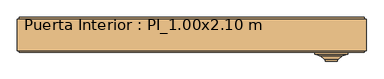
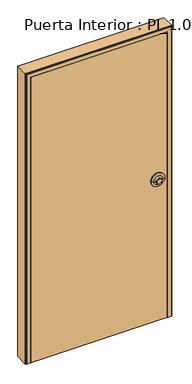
"""IFC4 building model written with IfcOpenShell, lengths in millimetres: door geometry, Puerta Interior : PI_1.00x2.10 m."""

from ifc_helpers import new_model, si_unit, point, frame, frame_2d, origin, place, context, project, spatial, polyline, circle_curve, ellipse_curve, trimmed, segment, composite_curve, outline, extrude, faceted_brep, source, transform, mapped, element, save
from ifc_brep_helpers import plane_surface, cylinder_surface, revolved_surface, advanced_brep


def puerta_interior_pi_1_00x2_10_m_514a608a(model_context):
    return source(origin(), model_context, "Body", "SolidModel", [
        extrude(outline(composite_curve([segment(trimmed(circle_curve(frame_2d((1025.0174632, 400.28125)), 17.5), [point((1025.0174632, 382.78125))], [point((1025.0174632, 417.78125))], False, "CARTESIAN"), True, "CONTINUOUS"), segment(trimmed(circle_curve(frame_2d((1025.0174632, 400.28125)), 17.5), [point((1025.0174632, 417.78125))], [point((1025.0174632, 382.78125))], False, "CARTESIAN"), True, "CONTINUOUS")], self_intersect=False)), frame((0.0, -75.0, 0.0), z_axis=(0.0, 1.0, 0.0), x_axis=(0.0, 0.0, 1.0)), (0.0, 0.0, 1.0), 20.0),
        advanced_brep(
        [(447.78125, -55.0, 1025.0174632), (447.78125, -50.0, 1025.0174632), (352.78125, -50.0, 1025.0174632), (352.78125, -55.0, 1025.0174632), (431.78125, -60.0, 1025.0174632), (368.78125, -60.0, 1025.0174632), (419.9828812, -70.0, 1025.0174632), (380.5796188, -70.0, 1025.0174632), (418.1741787, -70.0, 1025.0174632), (382.3883213, -70.0, 1025.0174632), (418.1741787, -55.0, 1025.0174632), (382.3883213, -55.0, 1025.0174632), (400.28125, -55.0, 1025.0174632), (400.28125, -50.0, 1025.0174632)],
        [
            (0, 1),
            (1, 2, circle_curve(frame((400.28125, -50.0, 1025.0174632), z_axis=(0.0, -1.0, 0.0), x_axis=(-1.0, 0.0, 0.0)), 47.5)),
            (2, 3),
            (3, 0, circle_curve(frame((400.28125, -55.0, 1025.0174632), z_axis=(0.0, 1.0, 0.0), x_axis=(-1.0, 0.0, 0.0)), 47.5)),
            (2, 1, circle_curve(frame((400.28125, -50.0, 1025.0174632), z_axis=(0.0, -1.0, 0.0), x_axis=(-1.0, 0.0, 0.0)), 47.5)),
            (0, 3, circle_curve(frame((400.28125, -55.0, 1025.0174632), z_axis=(0.0, 1.0, 0.0), x_axis=(-1.0, 0.0, 0.0)), 47.5)),
            (4, 0),
            (3, 5),
            (5, 4, circle_curve(frame((400.28125, -60.0, 1025.0174632), z_axis=(0.0, 1.0, 0.0), x_axis=(-1.0, 0.0, 0.0)), 31.5)),
            (4, 5, circle_curve(frame((400.28125, -60.0, 1025.0174632), z_axis=(0.0, 1.0, 0.0), x_axis=(-1.0, 0.0, 0.0)), 31.5)),
            (6, 4),
            (5, 7),
            (7, 6, circle_curve(frame((400.28125, -70.0, 1025.0174632), z_axis=(0.0, 1.0, 0.0), x_axis=(-1.0, 0.0, 0.0)), 19.7016312)),
            (6, 7, circle_curve(frame((400.28125, -70.0, 1025.0174632), z_axis=(0.0, 1.0, 0.0), x_axis=(-1.0, 0.0, 0.0)), 19.7016312)),
            (8, 6),
            (7, 9),
            (9, 8, circle_curve(frame((400.28125, -70.0, 1025.0174632), z_axis=(0.0, 1.0, 0.0), x_axis=(-1.0, 0.0, 0.0)), 17.8929287)),
            (8, 9, circle_curve(frame((400.28125, -70.0, 1025.0174632), z_axis=(0.0, 1.0, 0.0), x_axis=(-1.0, 0.0, 0.0)), 17.8929287)),
            (10, 8),
            (9, 11),
            (11, 10, circle_curve(frame((400.28125, -55.0, 1025.0174632), z_axis=(0.0, 1.0, 0.0), x_axis=(-1.0, 0.0, 0.0)), 17.8929287)),
            (10, 11, circle_curve(frame((400.28125, -55.0, 1025.0174632), z_axis=(0.0, 1.0, 0.0), x_axis=(-1.0, 0.0, 0.0)), 17.8929287)),
            (12, 10),
            (11, 12),
            (1, 13),
            (13, 2),
        ],
        [
            cylinder_surface(frame((400.28125, -50.0, 1025.0174632), z_axis=(0.0, -1.0, 0.0), x_axis=(-1.0, 0.0, 0.0)), 47.5),
            revolved_surface(polyline([(352.78125, -55.0, 1025.0174632), (368.78125, -60.0, 1025.0174632)]), (400.28125, -50.0, 1025.0174632), (0.0, -1.0, 0.0)),
            revolved_surface(polyline([(368.78125, -60.0, 1025.0174632), (380.5796188, -70.0, 1025.0174632)]), (400.28125, -50.0, 1025.0174632), (0.0, -1.0, 0.0)),
            plane_surface(frame((400.28125, -70.0, 1025.0174632), z_axis=(0.0, -1.0, 0.0), x_axis=(-1.0, 0.0, 0.0))),
            revolved_surface(polyline([(382.38832130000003, -70.0, 1025.0174632), (382.38832130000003, -55.0, 1025.0174632)]), (400.28125, -50.0, 1025.0174632), (0.0, -1.0, 0.0)),
            plane_surface(frame((400.28125, -55.0, 1025.0174632), z_axis=(0.0, -1.0, 0.0), x_axis=(-1.0, 0.0, 0.0))),
            plane_surface(frame((400.28125, -50.0, 1025.0174632), z_axis=(0.0, 1.0, 0.0), x_axis=(-1.0, 0.0, 0.0))),
        ],
        [
            (0, [[1, 2, 3, 4]]),
            (0, [[-3, 5, -1, 6]]),
            (1, [[7, -4, 8, 9]]),
            (1, [[-8, -6, -7, 10]]),
            (2, [[11, -9, 12, 13]]),
            (2, [[-12, -10, -11, 14]]),
            (3, [[15, -13, 16, 17]]),
            (3, [[-16, -14, -15, 18]]),
            (4, [[19, -17, 20, 21]]),
            (4, [[-20, -18, -19, 22]]),
            (5, [[23, -21, 24]]),
            (5, [[-24, -22, -23]]),
            (6, [[25, 26, -2]]),
            (6, [[-26, -25, -5]]),
        ],
    ),
        faceted_brep([(500.0, -45.0, 0.0), (495.0, -45.0, 0.0), (495.0, -50.0, 0.0), (467.0, -50.0, 0.0), (467.0, 0.0, 0.0), (450.0, 0.0, 0.0), (450.0, 50.0, 0.0), (495.0, 50.0, 0.0), (495.0, 45.0, 0.0), (500.0, 45.0, 0.0), (500.0, 45.0, 2100.0), (500.0, -45.0, 2100.0), (495.0, 45.0, 2095.0), (-495.0, 45.0, 2095.0), (-495.0, 45.0, 0.0), (-500.0, 45.0, 0.0), (-500.0, 45.0, 2100.0), (495.0, 50.0, 2095.0), (450.0, 50.0, 2050.0), (-450.0, 50.0, 2050.0), (-450.0, 50.0, 0.0), (-495.0, 50.0, 0.0), (-495.0, 50.0, 2095.0), (450.0, 0.0, 2050.0), (467.0, 0.0, 2067.0), (-467.0, 0.0, 2067.0), (-467.0, 0.0, 0.0), (-450.0, 0.0, 0.0), (-450.0, 0.0, 2050.0), (467.0, -50.0, 2067.0), (495.0, -50.0, 2095.0), (-495.0, -50.0, 2095.0), (-495.0, -50.0, 0.0), (-467.0, -50.0, 0.0), (-467.0, -50.0, 100.0349265), (-469.0, -50.0, 100.0349265), (-469.0, -50.0, 200.0349265), (-467.0, -50.0, 200.0349265), (-467.0, -50.0, 975.0174632), (-469.0, -50.0, 975.0174632), (-469.0, -50.0, 1075.0174632), (-467.0, -50.0, 1075.0174632), (-467.0, -50.0, 1850.0), (-469.0, -50.0, 1850.0), (-469.0, -50.0, 1950.0), (-467.0, -50.0, 1950.0), (-467.0, -50.0, 2067.0), (495.0, -45.0, 2095.0), (-500.0, -45.0, 2100.0), (-500.0, -45.0, 0.0), (-495.0, -45.0, 0.0), (-495.0, -45.0, 2095.0), (-467.0, -7.5, 1950.0), (-467.0, -7.5, 1850.0), (-467.0, -7.5, 1075.0174632), (-467.0, -7.5, 975.0174632), (-467.0, -7.5, 200.0349265), (-467.0, -7.5, 100.0349265), (-469.0, -7.5, 100.0349265), (-469.0, -7.5, 200.0349265), (-469.0, -7.5, 975.0174632), (-469.0, -7.5, 1075.0174632), (-469.0, -7.5, 1950.0), (-469.0, -7.5, 1850.0)], [[[0, 1, 2, 3, 4, 5, 6, 7, 8, 9]], [[9, 10, 11, 0]], [[8, 12, 13, 14, 15, 16, 10, 9]], [[7, 17, 12, 8]], [[6, 18, 19, 20, 21, 22, 17, 7]], [[5, 23, 18, 6]], [[4, 24, 25, 26, 27, 28, 23, 5]], [[3, 29, 24, 4]], [[2, 30, 31, 32, 33, 34, 35, 36, 37, 38, 39, 40, 41, 42, 43, 44, 45, 46, 29, 3]], [[1, 47, 30, 2]], [[0, 11, 48, 49, 50, 51, 47, 1]], [[15, 14, 21, 20, 27, 26, 33, 32, 50, 49]], [[16, 15, 49, 48]], [[51, 50, 32, 31]], [[46, 45, 52, 53, 42, 41, 54, 55, 38, 37, 56, 57, 34, 33, 26, 25]], [[28, 27, 20, 19]], [[22, 21, 14, 13]], [[58, 35, 34, 57]], [[58, 57, 56, 59]], [[56, 37, 36, 59]], [[60, 39, 38, 55]], [[60, 55, 54, 61]], [[54, 41, 40, 61]], [[61, 40, 39, 60]], [[59, 36, 35, 58]], [[10, 16, 48, 11]], [[23, 28, 19, 18]], [[29, 46, 25, 24]], [[17, 22, 13, 12]], [[47, 51, 31, 30]], [[62, 44, 43, 63]], [[62, 52, 45, 44]], [[63, 53, 52, 62]], [[43, 42, 53, 63]]]),
        extrude(outline(polyline([(467.0, -48.203125), (467.0, -50.0), (-467.0, -50.0), (-467.0, -48.203125), (467.0, -48.203125)])), frame((0.0, 0.0, 2.5), z_axis=(0.0, 0.0, 1.0), x_axis=(1.0, 0.0, 0.0)), (0.0, 0.0, 1.0), 2064.5),
        advanced_brep(
        [(117.5, 0.0, 395.0087316), (312.0, 0.0, 395.0087316), (312.0, 0.0, 157.5), (117.5, 0.0, 157.5), (37.5, -35.0, 77.5), (392.0, -35.0, 77.5), (392.0, -35.0, 475.0087316), (37.5, -35.0, 475.0087316), (117.5, 5.0, 395.0087316), (117.5, 5.0, 157.5), (37.5, -10.0, 475.0087316), (37.5, -10.0, 77.5), (97.5, 0.0, 415.0087316), (97.5, 0.0, 137.5), (107.5, 0.0, 405.0087316), (107.5, 0.0, 147.5), (112.5, 5.0, 400.0087316), (112.5, 5.0, 152.5), (112.5, 0.0, 152.5), (112.5, 0.0, 400.0087316), (312.0, 5.0, 157.5), (392.0, -10.0, 77.5), (332.0, 0.0, 137.5), (322.0, 0.0, 147.5), (317.0, 5.0, 152.5), (317.0, 0.0, 152.5), (312.0, 5.0, 395.0087316), (392.0, -10.0, 475.0087316), (332.0, 0.0, 415.0087316), (322.0, 0.0, 405.0087316), (317.0, 5.0, 400.0087316), (317.0, 0.0, 400.0087316)],
        [
            (0, 1),
            (1, 2),
            (2, 3),
            (3, 0),
            (4, 5),
            (5, 6),
            (6, 7),
            (7, 4),
            (8, 0),
            (3, 9),
            (9, 8),
            (10, 11),
            (11, 4),
            (7, 10),
            (10, 12),
            (12, 13),
            (13, 11),
            (12, 14, ellipse_curve(frame((102.5, 0.0, 410.0087316), z_axis=(-0.7071067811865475, 0.0, -0.7071067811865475), x_axis=(-0.7071067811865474, 0.0, 0.7071067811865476)), 7.0710678, 5.0)),
            (14, 15),
            (15, 13, ellipse_curve(frame((102.5, 0.0, 142.5), z_axis=(-0.7071067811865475, 0.0, 0.7071067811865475), x_axis=(0.7071067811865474, 0.0, 0.7071067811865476)), 7.0710678, 5.0)),
            (16, 17),
            (17, 18),
            (18, 19),
            (19, 16),
            (2, 20),
            (20, 9),
            (11, 21),
            (21, 5),
            (13, 22),
            (22, 21),
            (15, 23),
            (23, 22, ellipse_curve(frame((327.0, 0.0, 142.5), z_axis=(-0.7071067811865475, 0.0, -0.7071067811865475), x_axis=(-0.7071067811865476, 0.0, 0.7071067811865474)), 7.0710678, 5.0)),
            (17, 24),
            (24, 25),
            (25, 18),
            (1, 26),
            (26, 20),
            (21, 27),
            (27, 6),
            (22, 28),
            (28, 27),
            (23, 29),
            (29, 28, ellipse_curve(frame((327.0, 0.0, 410.0087316), z_axis=(0.7071067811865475, 0.0, -0.7071067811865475), x_axis=(-0.7071067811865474, 0.0, -0.7071067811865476)), 7.0710678, 5.0)),
            (24, 30),
            (30, 31),
            (31, 25),
            (8, 26),
            (27, 10),
            (28, 12),
            (29, 14),
            (31, 19),
            (30, 16),
        ],
        [
            plane_surface(frame((117.5, 0.0, 395.0087316), z_axis=(0.0, 1.0, 0.0), x_axis=(0.0, 0.0, -1.0))),
            plane_surface(frame((117.5, -35.0, 395.0087316), z_axis=(0.0, -1.0, 0.0), x_axis=(0.0, 0.0, 1.0))),
            plane_surface(frame((117.5, 5.0, 395.0087316), z_axis=(1.0, 0.0, 0.0), x_axis=(0.0, 0.0, -1.0))),
            plane_surface(frame((37.5, -35.0, 475.0087316), z_axis=(-1.0, 0.0, 0.0), x_axis=(0.0, 0.0, -1.0))),
            plane_surface(frame((37.5, -10.0, 475.0087316), z_axis=(-0.1643989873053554, 0.9863939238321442, 0.0), x_axis=(0.0, 0.0, -1.0))),
            cylinder_surface(frame((102.5, 0.0, 475.0087316), z_axis=(0.0, 0.0, 1.0), x_axis=(0.0, -1.0, 0.0)), 5.0),
            plane_surface(frame((112.5, 0.0, 400.0087316), z_axis=(-1.0, 0.0, 0.0), x_axis=(0.0, 0.0, -1.0))),
            plane_surface(frame((117.5, 5.0, 157.5), z_axis=(0.0, 0.0, 1.0), x_axis=(1.0, 0.0, 0.0))),
            plane_surface(frame((37.5, -35.0, 77.5), z_axis=(0.0, 0.0, -1.0), x_axis=(1.0, 0.0, 0.0))),
            plane_surface(frame((37.5, -10.0, 77.5), z_axis=(0.0, 0.9863939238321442, -0.1643989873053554), x_axis=(1.0, 0.0, 0.0))),
            cylinder_surface(frame((37.5, 0.0, 142.5), z_axis=(-1.0, 0.0, 0.0), x_axis=(0.0, -1.0, 0.0)), 5.0),
            plane_surface(frame((112.5, 0.0, 152.5), z_axis=(0.0, 0.0, -1.0), x_axis=(1.0, 0.0, 0.0))),
            plane_surface(frame((312.0, 5.0, 157.5), z_axis=(-1.0, 0.0, 0.0), x_axis=(0.0, 0.0, 1.0))),
            plane_surface(frame((392.0, -35.0, 77.5), z_axis=(1.0, 0.0, 0.0), x_axis=(0.0, 0.0, 1.0))),
            plane_surface(frame((392.0, -10.0, 77.5), z_axis=(0.1643989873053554, 0.9863939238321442, 0.0), x_axis=(0.0, 0.0, 1.0))),
            cylinder_surface(frame((327.0, 0.0, 77.5), z_axis=(0.0, 0.0, -1.0), x_axis=(0.0, -1.0, 0.0)), 5.0),
            plane_surface(frame((317.0, 0.0, 152.5), z_axis=(1.0, 0.0, 0.0), x_axis=(0.0, 0.0, 1.0))),
            plane_surface(frame((312.0, 5.0, 395.0087316), z_axis=(0.0, 0.0, -1.0), x_axis=(-1.0, 0.0, 0.0))),
            plane_surface(frame((392.0, -35.0, 475.0087316), z_axis=(0.0, 0.0, 1.0), x_axis=(-1.0, 0.0, 0.0))),
            plane_surface(frame((392.0, -10.0, 475.0087316), z_axis=(0.0, 0.9863939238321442, 0.1643989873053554), x_axis=(-1.0, 0.0, 0.0))),
            cylinder_surface(frame((392.0, 0.0, 410.0087316), z_axis=(1.0, 0.0, 0.0), x_axis=(0.0, -1.0, 0.0)), 5.0),
            plane_surface(frame((322.0, 0.0, 405.0087316), z_axis=(0.0, 1.0, 0.0), x_axis=(-1.0, 0.0, 0.0))),
            plane_surface(frame((317.0, 0.0, 400.0087316), z_axis=(0.0, 0.0, 1.0), x_axis=(-1.0, 0.0, 0.0))),
            plane_surface(frame((317.0, 5.0, 400.0087316), z_axis=(0.0, 1.0, 0.0), x_axis=(-1.0, 0.0, 0.0))),
        ],
        [
            (0, [[1, 2, 3, 4]]),
            (1, [[5, 6, 7, 8]]),
            (2, [[9, -4, 10, 11]]),
            (3, [[12, 13, -8, 14]]),
            (4, [[15, 16, 17, -12]]),
            (5, [[18, 19, 20, -16]]),
            (6, [[21, 22, 23, 24]]),
            (7, [[-10, -3, 25, 26]]),
            (8, [[27, 28, -5, -13]]),
            (9, [[29, 30, -27, -17]]),
            (10, [[31, 32, -29, -20]]),
            (11, [[33, 34, 35, -22]]),
            (12, [[-25, -2, 36, 37]]),
            (13, [[38, 39, -6, -28]]),
            (14, [[40, 41, -38, -30]]),
            (15, [[42, 43, -40, -32]]),
            (16, [[44, 45, 46, -34]]),
            (17, [[-36, -1, -9, 47]]),
            (18, [[-7, -39, 48, -14]]),
            (19, [[-48, -41, 49, -15]]),
            (20, [[-49, -43, 50, -18]]),
            (21, [[-50, -42, -31, -19], [-35, -46, 51, -23]]),
            (22, [[-51, -45, 52, -24]]),
            (23, [[-52, -44, -33, -21], [-26, -37, -47, -11]]),
        ],
    ),
        advanced_brep(
        [(-312.0, 0.0, 395.0087316), (-117.5, 0.0, 395.0087316), (-117.5, 0.0, 157.5), (-312.0, 0.0, 157.5), (-392.0, -35.0, 77.5), (-37.5, -35.0, 77.5), (-37.5, -35.0, 475.0087316), (-392.0, -35.0, 475.0087316), (-312.0, 5.0, 395.0087316), (-312.0, 5.0, 157.5), (-392.0, -10.0, 475.0087316), (-392.0, -10.0, 77.5), (-332.0, 0.0, 415.0087316), (-332.0, 0.0, 137.5), (-322.0, 0.0, 405.0087316), (-322.0, 0.0, 147.5), (-317.0, 5.0, 400.0087316), (-317.0, 5.0, 152.5), (-317.0, 0.0, 152.5), (-317.0, 0.0, 400.0087316), (-117.5, 5.0, 157.5), (-37.5, -10.0, 77.5), (-97.5, 0.0, 137.5), (-107.5, 0.0, 147.5), (-112.5, 5.0, 152.5), (-112.5, 0.0, 152.5), (-117.5, 5.0, 395.0087316), (-37.5, -10.0, 475.0087316), (-97.5, 0.0, 415.0087316), (-107.5, 0.0, 405.0087316), (-112.5, 5.0, 400.0087316), (-112.5, 0.0, 400.0087316)],
        [
            (0, 1),
            (1, 2),
            (2, 3),
            (3, 0),
            (4, 5),
            (5, 6),
            (6, 7),
            (7, 4),
            (8, 0),
            (3, 9),
            (9, 8),
            (10, 11),
            (11, 4),
            (7, 10),
            (10, 12),
            (12, 13),
            (13, 11),
            (12, 14, ellipse_curve(frame((-327.0, 0.0, 410.0087316), z_axis=(-0.7071067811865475, 0.0, -0.7071067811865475), x_axis=(-0.7071067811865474, 0.0, 0.7071067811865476)), 7.0710678, 5.0)),
            (14, 15),
            (15, 13, ellipse_curve(frame((-327.0, 0.0, 142.5), z_axis=(-0.7071067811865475, 0.0, 0.7071067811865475), x_axis=(0.7071067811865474, 0.0, 0.7071067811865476)), 7.0710678, 5.0)),
            (16, 17),
            (17, 18),
            (18, 19),
            (19, 16),
            (2, 20),
            (20, 9),
            (11, 21),
            (21, 5),
            (13, 22),
            (22, 21),
            (15, 23),
            (23, 22, ellipse_curve(frame((-102.5, 0.0, 142.5), z_axis=(-0.7071067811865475, 0.0, -0.7071067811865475), x_axis=(-0.7071067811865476, 0.0, 0.7071067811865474)), 7.0710678, 5.0)),
            (17, 24),
            (24, 25),
            (25, 18),
            (1, 26),
            (26, 20),
            (21, 27),
            (27, 6),
            (22, 28),
            (28, 27),
            (23, 29),
            (29, 28, ellipse_curve(frame((-102.5, 0.0, 410.0087316), z_axis=(0.7071067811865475, 0.0, -0.7071067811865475), x_axis=(-0.7071067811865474, 0.0, -0.7071067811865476)), 7.0710678, 5.0)),
            (24, 30),
            (30, 31),
            (31, 25),
            (8, 26),
            (27, 10),
            (28, 12),
            (29, 14),
            (31, 19),
            (30, 16),
        ],
        [
            plane_surface(frame((-312.0, 0.0, 395.0087316), z_axis=(0.0, 1.0, 0.0), x_axis=(0.0, 0.0, -1.0))),
            plane_surface(frame((-312.0, -35.0, 395.0087316), z_axis=(0.0, -1.0, 0.0), x_axis=(0.0, 0.0, 1.0))),
            plane_surface(frame((-312.0, 5.0, 395.0087316), z_axis=(1.0, 0.0, 0.0), x_axis=(0.0, 0.0, -1.0))),
            plane_surface(frame((-392.0, -35.0, 475.0087316), z_axis=(-1.0, 0.0, 0.0), x_axis=(0.0, 0.0, -1.0))),
            plane_surface(frame((-392.0, -10.0, 475.0087316), z_axis=(-0.1643989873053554, 0.9863939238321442, 0.0), x_axis=(0.0, 0.0, -1.0))),
            cylinder_surface(frame((-327.0, 0.0, 475.0087316), z_axis=(0.0, 0.0, 1.0), x_axis=(0.0, -1.0, 0.0)), 5.0),
            plane_surface(frame((-317.0, 0.0, 400.0087316), z_axis=(-1.0, 0.0, 0.0), x_axis=(0.0, 0.0, -1.0))),
            plane_surface(frame((-312.0, 5.0, 157.5), z_axis=(0.0, 0.0, 1.0), x_axis=(1.0, 0.0, 0.0))),
            plane_surface(frame((-392.0, -35.0, 77.5), z_axis=(0.0, 0.0, -1.0), x_axis=(1.0, 0.0, 0.0))),
            plane_surface(frame((-392.0, -10.0, 77.5), z_axis=(0.0, 0.9863939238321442, -0.1643989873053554), x_axis=(1.0, 0.0, 0.0))),
            cylinder_surface(frame((-392.0, 0.0, 142.5), z_axis=(-1.0, 0.0, 0.0), x_axis=(0.0, -1.0, 0.0)), 5.0),
            plane_surface(frame((-317.0, 0.0, 152.5), z_axis=(0.0, 0.0, -1.0), x_axis=(1.0, 0.0, 0.0))),
            plane_surface(frame((-117.5, 5.0, 157.5), z_axis=(-1.0, 0.0, 0.0), x_axis=(0.0, 0.0, 1.0))),
            plane_surface(frame((-37.5, -35.0, 77.5), z_axis=(1.0, 0.0, 0.0), x_axis=(0.0, 0.0, 1.0))),
            plane_surface(frame((-37.5, -10.0, 77.5), z_axis=(0.1643989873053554, 0.9863939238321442, 0.0), x_axis=(0.0, 0.0, 1.0))),
            cylinder_surface(frame((-102.5, 0.0, 77.5), z_axis=(0.0, 0.0, -1.0), x_axis=(0.0, -1.0, 0.0)), 5.0),
            plane_surface(frame((-112.5, 0.0, 152.5), z_axis=(1.0, 0.0, 0.0), x_axis=(0.0, 0.0, 1.0))),
            plane_surface(frame((-117.5, 5.0, 395.0087316), z_axis=(0.0, 0.0, -1.0), x_axis=(-1.0, 0.0, 0.0))),
            plane_surface(frame((-37.5, -35.0, 475.0087316), z_axis=(0.0, 0.0, 1.0), x_axis=(-1.0, 0.0, 0.0))),
            plane_surface(frame((-37.5, -10.0, 475.0087316), z_axis=(0.0, 0.9863939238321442, 0.1643989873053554), x_axis=(-1.0, 0.0, 0.0))),
            cylinder_surface(frame((-37.5, 0.0, 410.0087316), z_axis=(1.0, 0.0, 0.0), x_axis=(0.0, -1.0, 0.0)), 5.0),
            plane_surface(frame((-107.5, 0.0, 405.0087316), z_axis=(0.0, 1.0, 0.0), x_axis=(-1.0, 0.0, 0.0))),
            plane_surface(frame((-112.5, 0.0, 400.0087316), z_axis=(0.0, 0.0, 1.0), x_axis=(-1.0, 0.0, 0.0))),
            plane_surface(frame((-112.5, 5.0, 400.0087316), z_axis=(0.0, 1.0, 0.0), x_axis=(-1.0, 0.0, 0.0))),
        ],
        [
            (0, [[1, 2, 3, 4]]),
            (1, [[5, 6, 7, 8]]),
            (2, [[9, -4, 10, 11]]),
            (3, [[12, 13, -8, 14]]),
            (4, [[15, 16, 17, -12]]),
            (5, [[18, 19, 20, -16]]),
            (6, [[21, 22, 23, 24]]),
            (7, [[-10, -3, 25, 26]]),
            (8, [[27, 28, -5, -13]]),
            (9, [[29, 30, -27, -17]]),
            (10, [[31, 32, -29, -20]]),
            (11, [[33, 34, 35, -22]]),
            (12, [[-25, -2, 36, 37]]),
            (13, [[38, 39, -6, -28]]),
            (14, [[40, 41, -38, -30]]),
            (15, [[42, 43, -40, -32]]),
            (16, [[44, 45, 46, -34]]),
            (17, [[-36, -1, -9, 47]]),
            (18, [[-7, -39, 48, -14]]),
            (19, [[-48, -41, 49, -15]]),
            (20, [[-49, -43, 50, -18]]),
            (21, [[-50, -42, -31, -19], [-35, -46, 51, -23]]),
            (22, [[-51, -45, 52, -24]]),
            (23, [[-52, -44, -33, -21], [-26, -37, -47, -11]]),
        ],
    ),
        advanced_brep(
        [(-312.0, 0.0, 907.5174632), (-117.5, 0.0, 907.5174632), (-117.5, 0.0, 630.0087316), (-312.0, 0.0, 630.0087316), (-392.0, -35.0, 550.0087316), (-37.5, -35.0, 550.0087316), (-37.5, -35.0, 987.5174632), (-392.0, -35.0, 987.5174632), (-312.0, 5.0, 907.5174632), (-312.0, 5.0, 630.0087316), (-392.0, -10.0, 987.5174632), (-392.0, -10.0, 550.0087316), (-332.0, 0.0, 927.5174632), (-332.0, 0.0, 610.0087316), (-322.0, 0.0, 917.5174632), (-322.0, 0.0, 620.0087316), (-317.0, 5.0, 912.5174632), (-317.0, 5.0, 625.0087316), (-317.0, 0.0, 625.0087316), (-317.0, 0.0, 912.5174632), (-117.5, 5.0, 630.0087316), (-37.5, -10.0, 550.0087316), (-97.5, 0.0, 610.0087316), (-107.5, 0.0, 620.0087316), (-112.5, 5.0, 625.0087316), (-112.5, 0.0, 625.0087316), (-117.5, 5.0, 907.5174632), (-37.5, -10.0, 987.5174632), (-97.5, 0.0, 927.5174632), (-107.5, 0.0, 917.5174632), (-112.5, 5.0, 912.5174632), (-112.5, 0.0, 912.5174632)],
        [
            (0, 1),
            (1, 2),
            (2, 3),
            (3, 0),
            (4, 5),
            (5, 6),
            (6, 7),
            (7, 4),
            (8, 0),
            (3, 9),
            (9, 8),
            (10, 11),
            (11, 4),
            (7, 10),
            (10, 12),
            (12, 13),
            (13, 11),
            (12, 14, ellipse_curve(frame((-327.0, 0.0, 922.5174632), z_axis=(-0.7071067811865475, 0.0, -0.7071067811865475), x_axis=(-0.7071067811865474, 0.0, 0.7071067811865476)), 7.0710678, 5.0)),
            (14, 15),
            (15, 13, ellipse_curve(frame((-327.0, 0.0, 615.0087316), z_axis=(-0.7071067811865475, 0.0, 0.7071067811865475), x_axis=(0.7071067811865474, 0.0, 0.7071067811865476)), 7.0710678, 5.0)),
            (16, 17),
            (17, 18),
            (18, 19),
            (19, 16),
            (2, 20),
            (20, 9),
            (11, 21),
            (21, 5),
            (13, 22),
            (22, 21),
            (15, 23),
            (23, 22, ellipse_curve(frame((-102.5, 0.0, 615.0087316), z_axis=(-0.7071067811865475, 0.0, -0.7071067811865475), x_axis=(-0.7071067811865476, 0.0, 0.7071067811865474)), 7.0710678, 5.0)),
            (17, 24),
            (24, 25),
            (25, 18),
            (1, 26),
            (26, 20),
            (21, 27),
            (27, 6),
            (22, 28),
            (28, 27),
            (23, 29),
            (29, 28, ellipse_curve(frame((-102.5, 0.0, 922.5174632), z_axis=(0.7071067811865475, 0.0, -0.7071067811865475), x_axis=(-0.7071067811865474, 0.0, -0.7071067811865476)), 7.0710678, 5.0)),
            (24, 30),
            (30, 31),
            (31, 25),
            (8, 26),
            (27, 10),
            (28, 12),
            (29, 14),
            (31, 19),
            (30, 16),
        ],
        [
            plane_surface(frame((-312.0, 0.0, 907.5174632), z_axis=(0.0, 1.0, 0.0), x_axis=(0.0, 0.0, -1.0))),
            plane_surface(frame((-312.0, -35.0, 907.5174632), z_axis=(0.0, -1.0, 0.0), x_axis=(0.0, 0.0, 1.0))),
            plane_surface(frame((-312.0, 5.0, 907.5174632), z_axis=(1.0, 0.0, 0.0), x_axis=(0.0, 0.0, -1.0))),
            plane_surface(frame((-392.0, -35.0, 987.5174632), z_axis=(-1.0, 0.0, 0.0), x_axis=(0.0, 0.0, -1.0))),
            plane_surface(frame((-392.0, -10.0, 987.5174632), z_axis=(-0.1643989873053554, 0.9863939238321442, 0.0), x_axis=(0.0, 0.0, -1.0))),
            cylinder_surface(frame((-327.0, 0.0, 987.5174632), z_axis=(0.0, 0.0, 1.0), x_axis=(0.0, -1.0, 0.0)), 5.0),
            plane_surface(frame((-317.0, 0.0, 912.5174632), z_axis=(-1.0, 0.0, 0.0), x_axis=(0.0, 0.0, -1.0))),
            plane_surface(frame((-312.0, 5.0, 630.0087316), z_axis=(0.0, 0.0, 1.0), x_axis=(1.0, 0.0, 0.0))),
            plane_surface(frame((-392.0, -35.0, 550.0087316), z_axis=(0.0, 0.0, -1.0), x_axis=(1.0, 0.0, 0.0))),
            plane_surface(frame((-392.0, -10.0, 550.0087316), z_axis=(0.0, 0.9863939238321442, -0.1643989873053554), x_axis=(1.0, 0.0, 0.0))),
            cylinder_surface(frame((-392.0, 0.0, 615.0087316), z_axis=(-1.0, 0.0, 0.0), x_axis=(0.0, -1.0, 0.0)), 5.0),
            plane_surface(frame((-317.0, 0.0, 625.0087316), z_axis=(0.0, 0.0, -1.0), x_axis=(1.0, 0.0, 0.0))),
            plane_surface(frame((-117.5, 5.0, 630.0087316), z_axis=(-1.0, 0.0, 0.0), x_axis=(0.0, 0.0, 1.0))),
            plane_surface(frame((-37.5, -35.0, 550.0087316), z_axis=(1.0, 0.0, 0.0), x_axis=(0.0, 0.0, 1.0))),
            plane_surface(frame((-37.5, -10.0, 550.0087316), z_axis=(0.1643989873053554, 0.9863939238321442, 0.0), x_axis=(0.0, 0.0, 1.0))),
            cylinder_surface(frame((-102.5, 0.0, 550.0087316), z_axis=(0.0, 0.0, -1.0), x_axis=(0.0, -1.0, 0.0)), 5.0),
            plane_surface(frame((-112.5, 0.0, 625.0087316), z_axis=(1.0, 0.0, 0.0), x_axis=(0.0, 0.0, 1.0))),
            plane_surface(frame((-117.5, 5.0, 907.5174632), z_axis=(0.0, 0.0, -1.0), x_axis=(-1.0, 0.0, 0.0))),
            plane_surface(frame((-37.5, -35.0, 987.5174632), z_axis=(0.0, 0.0, 1.0), x_axis=(-1.0, 0.0, 0.0))),
            plane_surface(frame((-37.5, -10.0, 987.5174632), z_axis=(0.0, 0.9863939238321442, 0.1643989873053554), x_axis=(-1.0, 0.0, 0.0))),
            cylinder_surface(frame((-37.5, 0.0, 922.5174632), z_axis=(1.0, 0.0, 0.0), x_axis=(0.0, -1.0, 0.0)), 5.0),
            plane_surface(frame((-107.5, 0.0, 917.5174632), z_axis=(0.0, 1.0, 0.0), x_axis=(-1.0, 0.0, 0.0))),
            plane_surface(frame((-112.5, 0.0, 912.5174632), z_axis=(0.0, 0.0, 1.0), x_axis=(-1.0, 0.0, 0.0))),
            plane_surface(frame((-112.5, 5.0, 912.5174632), z_axis=(0.0, 1.0, 0.0), x_axis=(-1.0, 0.0, 0.0))),
        ],
        [
            (0, [[1, 2, 3, 4]]),
            (1, [[5, 6, 7, 8]]),
            (2, [[9, -4, 10, 11]]),
            (3, [[12, 13, -8, 14]]),
            (4, [[15, 16, 17, -12]]),
            (5, [[18, 19, 20, -16]]),
            (6, [[21, 22, 23, 24]]),
            (7, [[-10, -3, 25, 26]]),
            (8, [[27, 28, -5, -13]]),
            (9, [[29, 30, -27, -17]]),
            (10, [[31, 32, -29, -20]]),
            (11, [[33, 34, 35, -22]]),
            (12, [[-25, -2, 36, 37]]),
            (13, [[38, 39, -6, -28]]),
            (14, [[40, 41, -38, -30]]),
            (15, [[42, 43, -40, -32]]),
            (16, [[44, 45, 46, -34]]),
            (17, [[-36, -1, -9, 47]]),
            (18, [[-7, -39, 48, -14]]),
            (19, [[-48, -41, 49, -15]]),
            (20, [[-49, -43, 50, -18]]),
            (21, [[-50, -42, -31, -19], [-35, -46, 51, -23]]),
            (22, [[-51, -45, 52, -24]]),
            (23, [[-52, -44, -33, -21], [-26, -37, -47, -11]]),
        ],
    ),
        advanced_brep(
        [(117.5, 0.0, 907.5174632), (312.0, 0.0, 907.5174632), (312.0, 0.0, 630.0087316), (117.5, 0.0, 630.0087316), (37.5, -35.0, 550.0087316), (392.0, -35.0, 550.0087316), (392.0, -35.0, 987.5174632), (37.5, -35.0, 987.5174632), (117.5, 5.0, 907.5174632), (117.5, 5.0, 630.0087316), (37.5, -10.0, 987.5174632), (37.5, -10.0, 550.0087316), (97.5, 0.0, 927.5174632), (97.5, 0.0, 610.0087316), (107.5, 0.0, 917.5174632), (107.5, 0.0, 620.0087316), (112.5, 5.0, 912.5174632), (112.5, 5.0, 625.0087316), (112.5, 0.0, 625.0087316), (112.5, 0.0, 912.5174632), (312.0, 5.0, 630.0087316), (392.0, -10.0, 550.0087316), (332.0, 0.0, 610.0087316), (322.0, 0.0, 620.0087316), (317.0, 5.0, 625.0087316), (317.0, 0.0, 625.0087316), (312.0, 5.0, 907.5174632), (392.0, -10.0, 987.5174632), (332.0, 0.0, 927.5174632), (322.0, 0.0, 917.5174632), (317.0, 5.0, 912.5174632), (317.0, 0.0, 912.5174632)],
        [
            (0, 1),
            (1, 2),
            (2, 3),
            (3, 0),
            (4, 5),
            (5, 6),
            (6, 7),
            (7, 4),
            (8, 0),
            (3, 9),
            (9, 8),
            (10, 11),
            (11, 4),
            (7, 10),
            (10, 12),
            (12, 13),
            (13, 11),
            (12, 14, ellipse_curve(frame((102.5, 0.0, 922.5174632), z_axis=(-0.7071067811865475, 0.0, -0.7071067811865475), x_axis=(-0.7071067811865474, 0.0, 0.7071067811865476)), 7.0710678, 5.0)),
            (14, 15),
            (15, 13, ellipse_curve(frame((102.5, 0.0, 615.0087316), z_axis=(-0.7071067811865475, 0.0, 0.7071067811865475), x_axis=(0.7071067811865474, 0.0, 0.7071067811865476)), 7.0710678, 5.0)),
            (16, 17),
            (17, 18),
            (18, 19),
            (19, 16),
            (2, 20),
            (20, 9),
            (11, 21),
            (21, 5),
            (13, 22),
            (22, 21),
            (15, 23),
            (23, 22, ellipse_curve(frame((327.0, 0.0, 615.0087316), z_axis=(-0.7071067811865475, 0.0, -0.7071067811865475), x_axis=(-0.7071067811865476, 0.0, 0.7071067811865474)), 7.0710678, 5.0)),
            (17, 24),
            (24, 25),
            (25, 18),
            (1, 26),
            (26, 20),
            (21, 27),
            (27, 6),
            (22, 28),
            (28, 27),
            (23, 29),
            (29, 28, ellipse_curve(frame((327.0, 0.0, 922.5174632), z_axis=(0.7071067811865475, 0.0, -0.7071067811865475), x_axis=(-0.7071067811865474, 0.0, -0.7071067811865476)), 7.0710678, 5.0)),
            (24, 30),
            (30, 31),
            (31, 25),
            (8, 26),
            (27, 10),
            (28, 12),
            (29, 14),
            (31, 19),
            (30, 16),
        ],
        [
            plane_surface(frame((117.5, 0.0, 907.5174632), z_axis=(0.0, 1.0, 0.0), x_axis=(0.0, 0.0, -1.0))),
            plane_surface(frame((117.5, -35.0, 907.5174632), z_axis=(0.0, -1.0, 0.0), x_axis=(0.0, 0.0, 1.0))),
            plane_surface(frame((117.5, 5.0, 907.5174632), z_axis=(1.0, 0.0, 0.0), x_axis=(0.0, 0.0, -1.0))),
            plane_surface(frame((37.5, -35.0, 987.5174632), z_axis=(-1.0, 0.0, 0.0), x_axis=(0.0, 0.0, -1.0))),
            plane_surface(frame((37.5, -10.0, 987.5174632), z_axis=(-0.1643989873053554, 0.9863939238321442, 0.0), x_axis=(0.0, 0.0, -1.0))),
            cylinder_surface(frame((102.5, 0.0, 987.5174632), z_axis=(0.0, 0.0, 1.0), x_axis=(0.0, -1.0, 0.0)), 5.0),
            plane_surface(frame((112.5, 0.0, 912.5174632), z_axis=(-1.0, 0.0, 0.0), x_axis=(0.0, 0.0, -1.0))),
            plane_surface(frame((117.5, 5.0, 630.0087316), z_axis=(0.0, 0.0, 1.0), x_axis=(1.0, 0.0, 0.0))),
            plane_surface(frame((37.5, -35.0, 550.0087316), z_axis=(0.0, 0.0, -1.0), x_axis=(1.0, 0.0, 0.0))),
            plane_surface(frame((37.5, -10.0, 550.0087316), z_axis=(0.0, 0.9863939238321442, -0.1643989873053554), x_axis=(1.0, 0.0, 0.0))),
            cylinder_surface(frame((37.5, 0.0, 615.0087316), z_axis=(-1.0, 0.0, 0.0), x_axis=(0.0, -1.0, 0.0)), 5.0),
            plane_surface(frame((112.5, 0.0, 625.0087316), z_axis=(0.0, 0.0, -1.0), x_axis=(1.0, 0.0, 0.0))),
            plane_surface(frame((312.0, 5.0, 630.0087316), z_axis=(-1.0, 0.0, 0.0), x_axis=(0.0, 0.0, 1.0))),
            plane_surface(frame((392.0, -35.0, 550.0087316), z_axis=(1.0, 0.0, 0.0), x_axis=(0.0, 0.0, 1.0))),
            plane_surface(frame((392.0, -10.0, 550.0087316), z_axis=(0.1643989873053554, 0.9863939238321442, 0.0), x_axis=(0.0, 0.0, 1.0))),
            cylinder_surface(frame((327.0, 0.0, 550.0087316), z_axis=(0.0, 0.0, -1.0), x_axis=(0.0, -1.0, 0.0)), 5.0),
            plane_surface(frame((317.0, 0.0, 625.0087316), z_axis=(1.0, 0.0, 0.0), x_axis=(0.0, 0.0, 1.0))),
            plane_surface(frame((312.0, 5.0, 907.5174632), z_axis=(0.0, 0.0, -1.0), x_axis=(-1.0, 0.0, 0.0))),
            plane_surface(frame((392.0, -35.0, 987.5174632), z_axis=(0.0, 0.0, 1.0), x_axis=(-1.0, 0.0, 0.0))),
            plane_surface(frame((392.0, -10.0, 987.5174632), z_axis=(0.0, 0.9863939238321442, 0.1643989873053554), x_axis=(-1.0, 0.0, 0.0))),
            cylinder_surface(frame((392.0, 0.0, 922.5174632), z_axis=(1.0, 0.0, 0.0), x_axis=(0.0, -1.0, 0.0)), 5.0),
            plane_surface(frame((322.0, 0.0, 917.5174632), z_axis=(0.0, 1.0, 0.0), x_axis=(-1.0, 0.0, 0.0))),
            plane_surface(frame((317.0, 0.0, 912.5174632), z_axis=(0.0, 0.0, 1.0), x_axis=(-1.0, 0.0, 0.0))),
            plane_surface(frame((317.0, 5.0, 912.5174632), z_axis=(0.0, 1.0, 0.0), x_axis=(-1.0, 0.0, 0.0))),
        ],
        [
            (0, [[1, 2, 3, 4]]),
            (1, [[5, 6, 7, 8]]),
            (2, [[9, -4, 10, 11]]),
            (3, [[12, 13, -8, 14]]),
            (4, [[15, 16, 17, -12]]),
            (5, [[18, 19, 20, -16]]),
            (6, [[21, 22, 23, 24]]),
            (7, [[-10, -3, 25, 26]]),
            (8, [[27, 28, -5, -13]]),
            (9, [[29, 30, -27, -17]]),
            (10, [[31, 32, -29, -20]]),
            (11, [[33, 34, 35, -22]]),
            (12, [[-25, -2, 36, 37]]),
            (13, [[38, 39, -6, -28]]),
            (14, [[40, 41, -38, -30]]),
            (15, [[42, 43, -40, -32]]),
            (16, [[44, 45, 46, -34]]),
            (17, [[-36, -1, -9, 47]]),
            (18, [[-7, -39, 48, -14]]),
            (19, [[-48, -41, 49, -15]]),
            (20, [[-49, -43, 50, -18]]),
            (21, [[-50, -42, -31, -19], [-35, -46, 51, -23]]),
            (22, [[-51, -45, 52, -24]]),
            (23, [[-52, -44, -33, -21], [-26, -37, -47, -11]]),
        ],
    ),
        advanced_brep(
        [(117.5, 0.0, 1445.0087316), (312.0, 0.0, 1445.0087316), (312.0, 0.0, 1142.5174632), (117.5, 0.0, 1142.5174632), (37.5, -35.0, 1062.5174632), (392.0, -35.0, 1062.5174632), (392.0, -35.0, 1525.0087316), (37.5, -35.0, 1525.0087316), (117.5, 5.0, 1445.0087316), (117.5, 5.0, 1142.5174632), (37.5, -10.0, 1525.0087316), (37.5, -10.0, 1062.5174632), (97.5, 0.0, 1465.0087316), (97.5, 0.0, 1122.5174632), (107.5, 0.0, 1455.0087316), (107.5, 0.0, 1132.5174632), (112.5, 5.0, 1450.0087316), (112.5, 5.0, 1137.5174632), (112.5, 0.0, 1137.5174632), (112.5, 0.0, 1450.0087316), (312.0, 5.0, 1142.5174632), (392.0, -10.0, 1062.5174632), (332.0, 0.0, 1122.5174632), (322.0, 0.0, 1132.5174632), (317.0, 5.0, 1137.5174632), (317.0, 0.0, 1137.5174632), (312.0, 5.0, 1445.0087316), (392.0, -10.0, 1525.0087316), (332.0, 0.0, 1465.0087316), (322.0, 0.0, 1455.0087316), (317.0, 5.0, 1450.0087316), (317.0, 0.0, 1450.0087316)],
        [
            (0, 1),
            (1, 2),
            (2, 3),
            (3, 0),
            (4, 5),
            (5, 6),
            (6, 7),
            (7, 4),
            (8, 0),
            (3, 9),
            (9, 8),
            (10, 11),
            (11, 4),
            (7, 10),
            (10, 12),
            (12, 13),
            (13, 11),
            (12, 14, ellipse_curve(frame((102.5, 0.0, 1460.0087316), z_axis=(-0.7071067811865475, 0.0, -0.7071067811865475), x_axis=(-0.7071067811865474, 0.0, 0.7071067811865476)), 7.0710678, 5.0)),
            (14, 15),
            (15, 13, ellipse_curve(frame((102.5, 0.0, 1127.5174632), z_axis=(-0.7071067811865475, 0.0, 0.7071067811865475), x_axis=(0.7071067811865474, 0.0, 0.7071067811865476)), 7.0710678, 5.0)),
            (16, 17),
            (17, 18),
            (18, 19),
            (19, 16),
            (2, 20),
            (20, 9),
            (11, 21),
            (21, 5),
            (13, 22),
            (22, 21),
            (15, 23),
            (23, 22, ellipse_curve(frame((327.0, 0.0, 1127.5174632), z_axis=(-0.7071067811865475, 0.0, -0.7071067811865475), x_axis=(-0.7071067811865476, 0.0, 0.7071067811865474)), 7.0710678, 5.0)),
            (17, 24),
            (24, 25),
            (25, 18),
            (1, 26),
            (26, 20),
            (21, 27),
            (27, 6),
            (22, 28),
            (28, 27),
            (23, 29),
            (29, 28, ellipse_curve(frame((327.0, 0.0, 1460.0087316), z_axis=(0.7071067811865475, 0.0, -0.7071067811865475), x_axis=(-0.7071067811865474, 0.0, -0.7071067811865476)), 7.0710678, 5.0)),
            (24, 30),
            (30, 31),
            (31, 25),
            (8, 26),
            (27, 10),
            (28, 12),
            (29, 14),
            (31, 19),
            (30, 16),
        ],
        [
            plane_surface(frame((117.5, 0.0, 1445.0087316), z_axis=(0.0, 1.0, 0.0), x_axis=(0.0, 0.0, -1.0))),
            plane_surface(frame((117.5, -35.0, 1445.0087316), z_axis=(0.0, -1.0, 0.0), x_axis=(0.0, 0.0, 1.0))),
            plane_surface(frame((117.5, 5.0, 1445.0087316), z_axis=(1.0, 0.0, 0.0), x_axis=(0.0, 0.0, -1.0))),
            plane_surface(frame((37.5, -35.0, 1525.0087316), z_axis=(-1.0, 0.0, 0.0), x_axis=(0.0, 0.0, -1.0))),
            plane_surface(frame((37.5, -10.0, 1525.0087316), z_axis=(-0.1643989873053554, 0.9863939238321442, 0.0), x_axis=(0.0, 0.0, -1.0))),
            cylinder_surface(frame((102.5, 0.0, 1525.0087316), z_axis=(0.0, 0.0, 1.0), x_axis=(0.0, -1.0, 0.0)), 5.0),
            plane_surface(frame((112.5, 0.0, 1450.0087316), z_axis=(-1.0, 0.0, 0.0), x_axis=(0.0, 0.0, -1.0))),
            plane_surface(frame((117.5, 5.0, 1142.5174632), z_axis=(0.0, 0.0, 1.0), x_axis=(1.0, 0.0, 0.0))),
            plane_surface(frame((37.5, -35.0, 1062.5174632), z_axis=(0.0, 0.0, -1.0), x_axis=(1.0, 0.0, 0.0))),
            plane_surface(frame((37.5, -10.0, 1062.5174632), z_axis=(0.0, 0.9863939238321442, -0.1643989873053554), x_axis=(1.0, 0.0, 0.0))),
            cylinder_surface(frame((37.5, 0.0, 1127.5174632), z_axis=(-1.0, 0.0, 0.0), x_axis=(0.0, -1.0, 0.0)), 5.0),
            plane_surface(frame((112.5, 0.0, 1137.5174632), z_axis=(0.0, 0.0, -1.0), x_axis=(1.0, 0.0, 0.0))),
            plane_surface(frame((312.0, 5.0, 1142.5174632), z_axis=(-1.0, 0.0, 0.0), x_axis=(0.0, 0.0, 1.0))),
            plane_surface(frame((392.0, -35.0, 1062.5174632), z_axis=(1.0, 0.0, 0.0), x_axis=(0.0, 0.0, 1.0))),
            plane_surface(frame((392.0, -10.0, 1062.5174632), z_axis=(0.1643989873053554, 0.9863939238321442, 0.0), x_axis=(0.0, 0.0, 1.0))),
            cylinder_surface(frame((327.0, 0.0, 1062.5174632), z_axis=(0.0, 0.0, -1.0), x_axis=(0.0, -1.0, 0.0)), 5.0),
            plane_surface(frame((317.0, 0.0, 1137.5174632), z_axis=(1.0, 0.0, 0.0), x_axis=(0.0, 0.0, 1.0))),
            plane_surface(frame((312.0, 5.0, 1445.0087316), z_axis=(0.0, 0.0, -1.0), x_axis=(-1.0, 0.0, 0.0))),
            plane_surface(frame((392.0, -35.0, 1525.0087316), z_axis=(0.0, 0.0, 1.0), x_axis=(-1.0, 0.0, 0.0))),
            plane_surface(frame((392.0, -10.0, 1525.0087316), z_axis=(0.0, 0.9863939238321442, 0.1643989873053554), x_axis=(-1.0, 0.0, 0.0))),
            cylinder_surface(frame((392.0, 0.0, 1460.0087316), z_axis=(1.0, 0.0, 0.0), x_axis=(0.0, -1.0, 0.0)), 5.0),
            plane_surface(frame((322.0, 0.0, 1455.0087316), z_axis=(0.0, 1.0, 0.0), x_axis=(-1.0, 0.0, 0.0))),
            plane_surface(frame((317.0, 0.0, 1450.0087316), z_axis=(0.0, 0.0, 1.0), x_axis=(-1.0, 0.0, 0.0))),
            plane_surface(frame((317.0, 5.0, 1450.0087316), z_axis=(0.0, 1.0, 0.0), x_axis=(-1.0, 0.0, 0.0))),
        ],
        [
            (0, [[1, 2, 3, 4]]),
            (1, [[5, 6, 7, 8]]),
            (2, [[9, -4, 10, 11]]),
            (3, [[12, 13, -8, 14]]),
            (4, [[15, 16, 17, -12]]),
            (5, [[18, 19, 20, -16]]),
            (6, [[21, 22, 23, 24]]),
            (7, [[-10, -3, 25, 26]]),
            (8, [[27, 28, -5, -13]]),
            (9, [[29, 30, -27, -17]]),
            (10, [[31, 32, -29, -20]]),
            (11, [[33, 34, 35, -22]]),
            (12, [[-25, -2, 36, 37]]),
            (13, [[38, 39, -6, -28]]),
            (14, [[40, 41, -38, -30]]),
            (15, [[42, 43, -40, -32]]),
            (16, [[44, 45, 46, -34]]),
            (17, [[-36, -1, -9, 47]]),
            (18, [[-7, -39, 48, -14]]),
            (19, [[-48, -41, 49, -15]]),
            (20, [[-49, -43, 50, -18]]),
            (21, [[-50, -42, -31, -19], [-35, -46, 51, -23]]),
            (22, [[-51, -45, 52, -24]]),
            (23, [[-52, -44, -33, -21], [-26, -37, -47, -11]]),
        ],
    ),
        advanced_brep(
        [(-312.0, 0.0, 1445.0087316), (-117.5, 0.0, 1445.0087316), (-117.5, 0.0, 1142.5174632), (-312.0, 0.0, 1142.5174632), (-392.0, -35.0, 1062.5174632), (-37.5, -35.0, 1062.5174632), (-37.5, -35.0, 1525.0087316), (-392.0, -35.0, 1525.0087316), (-312.0, 5.0, 1445.0087316), (-312.0, 5.0, 1142.5174632), (-392.0, -10.0, 1525.0087316), (-392.0, -10.0, 1062.5174632), (-332.0, 0.0, 1465.0087316), (-332.0, 0.0, 1122.5174632), (-322.0, 0.0, 1455.0087316), (-322.0, 0.0, 1132.5174632), (-317.0, 5.0, 1450.0087316), (-317.0, 5.0, 1137.5174632), (-317.0, 0.0, 1137.5174632), (-317.0, 0.0, 1450.0087316), (-117.5, 5.0, 1142.5174632), (-37.5, -10.0, 1062.5174632), (-97.5, 0.0, 1122.5174632), (-107.5, 0.0, 1132.5174632), (-112.5, 5.0, 1137.5174632), (-112.5, 0.0, 1137.5174632), (-117.5, 5.0, 1445.0087316), (-37.5, -10.0, 1525.0087316), (-97.5, 0.0, 1465.0087316), (-107.5, 0.0, 1455.0087316), (-112.5, 5.0, 1450.0087316), (-112.5, 0.0, 1450.0087316)],
        [
            (0, 1),
            (1, 2),
            (2, 3),
            (3, 0),
            (4, 5),
            (5, 6),
            (6, 7),
            (7, 4),
            (8, 0),
            (3, 9),
            (9, 8),
            (10, 11),
            (11, 4),
            (7, 10),
            (10, 12),
            (12, 13),
            (13, 11),
            (12, 14, ellipse_curve(frame((-327.0, 0.0, 1460.0087316), z_axis=(-0.7071067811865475, 0.0, -0.7071067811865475), x_axis=(-0.7071067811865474, 0.0, 0.7071067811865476)), 7.0710678, 5.0)),
            (14, 15),
            (15, 13, ellipse_curve(frame((-327.0, 0.0, 1127.5174632), z_axis=(-0.7071067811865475, 0.0, 0.7071067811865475), x_axis=(0.7071067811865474, 0.0, 0.7071067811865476)), 7.0710678, 5.0)),
            (16, 17),
            (17, 18),
            (18, 19),
            (19, 16),
            (2, 20),
            (20, 9),
            (11, 21),
            (21, 5),
            (13, 22),
            (22, 21),
            (15, 23),
            (23, 22, ellipse_curve(frame((-102.5, 0.0, 1127.5174632), z_axis=(-0.7071067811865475, 0.0, -0.7071067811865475), x_axis=(-0.7071067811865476, 0.0, 0.7071067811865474)), 7.0710678, 5.0)),
            (17, 24),
            (24, 25),
            (25, 18),
            (1, 26),
            (26, 20),
            (21, 27),
            (27, 6),
            (22, 28),
            (28, 27),
            (23, 29),
            (29, 28, ellipse_curve(frame((-102.5, 0.0, 1460.0087316), z_axis=(0.7071067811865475, 0.0, -0.7071067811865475), x_axis=(-0.7071067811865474, 0.0, -0.7071067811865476)), 7.0710678, 5.0)),
            (24, 30),
            (30, 31),
            (31, 25),
            (8, 26),
            (27, 10),
            (28, 12),
            (29, 14),
            (31, 19),
            (30, 16),
        ],
        [
            plane_surface(frame((-312.0, 0.0, 1445.0087316), z_axis=(0.0, 1.0, 0.0), x_axis=(0.0, 0.0, -1.0))),
            plane_surface(frame((-312.0, -35.0, 1445.0087316), z_axis=(0.0, -1.0, 0.0), x_axis=(0.0, 0.0, 1.0))),
            plane_surface(frame((-312.0, 5.0, 1445.0087316), z_axis=(1.0, 0.0, 0.0), x_axis=(0.0, 0.0, -1.0))),
            plane_surface(frame((-392.0, -35.0, 1525.0087316), z_axis=(-1.0, 0.0, 0.0), x_axis=(0.0, 0.0, -1.0))),
            plane_surface(frame((-392.0, -10.0, 1525.0087316), z_axis=(-0.1643989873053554, 0.9863939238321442, 0.0), x_axis=(0.0, 0.0, -1.0))),
            cylinder_surface(frame((-327.0, 0.0, 1525.0087316), z_axis=(0.0, 0.0, 1.0), x_axis=(0.0, -1.0, 0.0)), 5.0),
            plane_surface(frame((-317.0, 0.0, 1450.0087316), z_axis=(-1.0, 0.0, 0.0), x_axis=(0.0, 0.0, -1.0))),
            plane_surface(frame((-312.0, 5.0, 1142.5174632), z_axis=(0.0, 0.0, 1.0), x_axis=(1.0, 0.0, 0.0))),
            plane_surface(frame((-392.0, -35.0, 1062.5174632), z_axis=(0.0, 0.0, -1.0), x_axis=(1.0, 0.0, 0.0))),
            plane_surface(frame((-392.0, -10.0, 1062.5174632), z_axis=(0.0, 0.9863939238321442, -0.1643989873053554), x_axis=(1.0, 0.0, 0.0))),
            cylinder_surface(frame((-392.0, 0.0, 1127.5174632), z_axis=(-1.0, 0.0, 0.0), x_axis=(0.0, -1.0, 0.0)), 5.0),
            plane_surface(frame((-317.0, 0.0, 1137.5174632), z_axis=(0.0, 0.0, -1.0), x_axis=(1.0, 0.0, 0.0))),
            plane_surface(frame((-117.5, 5.0, 1142.5174632), z_axis=(-1.0, 0.0, 0.0), x_axis=(0.0, 0.0, 1.0))),
            plane_surface(frame((-37.5, -35.0, 1062.5174632), z_axis=(1.0, 0.0, 0.0), x_axis=(0.0, 0.0, 1.0))),
            plane_surface(frame((-37.5, -10.0, 1062.5174632), z_axis=(0.1643989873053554, 0.9863939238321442, 0.0), x_axis=(0.0, 0.0, 1.0))),
            cylinder_surface(frame((-102.5, 0.0, 1062.5174632), z_axis=(0.0, 0.0, -1.0), x_axis=(0.0, -1.0, 0.0)), 5.0),
            plane_surface(frame((-112.5, 0.0, 1137.5174632), z_axis=(1.0, 0.0, 0.0), x_axis=(0.0, 0.0, 1.0))),
            plane_surface(frame((-117.5, 5.0, 1445.0087316), z_axis=(0.0, 0.0, -1.0), x_axis=(-1.0, 0.0, 0.0))),
            plane_surface(frame((-37.5, -35.0, 1525.0087316), z_axis=(0.0, 0.0, 1.0), x_axis=(-1.0, 0.0, 0.0))),
            plane_surface(frame((-37.5, -10.0, 1525.0087316), z_axis=(0.0, 0.9863939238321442, 0.1643989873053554), x_axis=(-1.0, 0.0, 0.0))),
            cylinder_surface(frame((-37.5, 0.0, 1460.0087316), z_axis=(1.0, 0.0, 0.0), x_axis=(0.0, -1.0, 0.0)), 5.0),
            plane_surface(frame((-107.5, 0.0, 1455.0087316), z_axis=(0.0, 1.0, 0.0), x_axis=(-1.0, 0.0, 0.0))),
            plane_surface(frame((-112.5, 0.0, 1450.0087316), z_axis=(0.0, 0.0, 1.0), x_axis=(-1.0, 0.0, 0.0))),
            plane_surface(frame((-112.5, 5.0, 1450.0087316), z_axis=(0.0, 1.0, 0.0), x_axis=(-1.0, 0.0, 0.0))),
        ],
        [
            (0, [[1, 2, 3, 4]]),
            (1, [[5, 6, 7, 8]]),
            (2, [[9, -4, 10, 11]]),
            (3, [[12, 13, -8, 14]]),
            (4, [[15, 16, 17, -12]]),
            (5, [[18, 19, 20, -16]]),
            (6, [[21, 22, 23, 24]]),
            (7, [[-10, -3, 25, 26]]),
            (8, [[27, 28, -5, -13]]),
            (9, [[29, 30, -27, -17]]),
            (10, [[31, 32, -29, -20]]),
            (11, [[33, 34, 35, -22]]),
            (12, [[-25, -2, 36, 37]]),
            (13, [[38, 39, -6, -28]]),
            (14, [[40, 41, -38, -30]]),
            (15, [[42, 43, -40, -32]]),
            (16, [[44, 45, 46, -34]]),
            (17, [[-36, -1, -9, 47]]),
            (18, [[-7, -39, 48, -14]]),
            (19, [[-48, -41, 49, -15]]),
            (20, [[-49, -43, 50, -18]]),
            (21, [[-50, -42, -31, -19], [-35, -46, 51, -23]]),
            (22, [[-51, -45, 52, -24]]),
            (23, [[-52, -44, -33, -21], [-26, -37, -47, -11]]),
        ],
    ),
        advanced_brep(
        [(-312.0, 0.0, 1912.0), (-117.5, 0.0, 1912.0), (-117.5, 0.0, 1680.0087316), (-312.0, 0.0, 1680.0087316), (-392.0, -35.0, 1600.0087316), (-37.5, -35.0, 1600.0087316), (-37.5, -35.0, 1992.0), (-392.0, -35.0, 1992.0), (-312.0, 5.0, 1912.0), (-312.0, 5.0, 1680.0087316), (-392.0, -10.0, 1992.0), (-392.0, -10.0, 1600.0087316), (-332.0, 0.0, 1932.0), (-332.0, 0.0, 1660.0087316), (-322.0, 0.0, 1922.0), (-322.0, 0.0, 1670.0087316), (-317.0, 5.0, 1917.0), (-317.0, 5.0, 1675.0087316), (-317.0, 0.0, 1675.0087316), (-317.0, 0.0, 1917.0), (-117.5, 5.0, 1680.0087316), (-37.5, -10.0, 1600.0087316), (-97.5, 0.0, 1660.0087316), (-107.5, 0.0, 1670.0087316), (-112.5, 5.0, 1675.0087316), (-112.5, 0.0, 1675.0087316), (-117.5, 5.0, 1912.0), (-37.5, -10.0, 1992.0), (-97.5, 0.0, 1932.0), (-107.5, 0.0, 1922.0), (-112.5, 5.0, 1917.0), (-112.5, 0.0, 1917.0)],
        [
            (0, 1),
            (1, 2),
            (2, 3),
            (3, 0),
            (4, 5),
            (5, 6),
            (6, 7),
            (7, 4),
            (8, 0),
            (3, 9),
            (9, 8),
            (10, 11),
            (11, 4),
            (7, 10),
            (10, 12),
            (12, 13),
            (13, 11),
            (12, 14, ellipse_curve(frame((-327.0, 0.0, 1927.0), z_axis=(-0.7071067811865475, 0.0, -0.7071067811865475), x_axis=(-0.7071067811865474, 0.0, 0.7071067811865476)), 7.0710678, 5.0)),
            (14, 15),
            (15, 13, ellipse_curve(frame((-327.0, 0.0, 1665.0087316), z_axis=(-0.7071067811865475, 0.0, 0.7071067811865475), x_axis=(0.7071067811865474, 0.0, 0.7071067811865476)), 7.0710678, 5.0)),
            (16, 17),
            (17, 18),
            (18, 19),
            (19, 16),
            (2, 20),
            (20, 9),
            (11, 21),
            (21, 5),
            (13, 22),
            (22, 21),
            (15, 23),
            (23, 22, ellipse_curve(frame((-102.5, 0.0, 1665.0087316), z_axis=(-0.7071067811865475, 0.0, -0.7071067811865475), x_axis=(-0.7071067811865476, 0.0, 0.7071067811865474)), 7.0710678, 5.0)),
            (17, 24),
            (24, 25),
            (25, 18),
            (1, 26),
            (26, 20),
            (21, 27),
            (27, 6),
            (22, 28),
            (28, 27),
            (23, 29),
            (29, 28, ellipse_curve(frame((-102.5, 0.0, 1927.0), z_axis=(0.7071067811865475, 0.0, -0.7071067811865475), x_axis=(-0.7071067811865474, 0.0, -0.7071067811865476)), 7.0710678, 5.0)),
            (24, 30),
            (30, 31),
            (31, 25),
            (8, 26),
            (27, 10),
            (28, 12),
            (29, 14),
            (31, 19),
            (30, 16),
        ],
        [
            plane_surface(frame((-312.0, 0.0, 1912.0), z_axis=(0.0, 1.0, 0.0), x_axis=(0.0, 0.0, -1.0))),
            plane_surface(frame((-312.0, -35.0, 1912.0), z_axis=(0.0, -1.0, 0.0), x_axis=(0.0, 0.0, 1.0))),
            plane_surface(frame((-312.0, 5.0, 1912.0), z_axis=(1.0, 0.0, 0.0), x_axis=(0.0, 0.0, -1.0))),
            plane_surface(frame((-392.0, -35.0, 1992.0), z_axis=(-1.0, 0.0, 0.0), x_axis=(0.0, 0.0, -1.0))),
            plane_surface(frame((-392.0, -10.0, 1992.0), z_axis=(-0.1643989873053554, 0.9863939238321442, 0.0), x_axis=(0.0, 0.0, -1.0))),
            cylinder_surface(frame((-327.0, 0.0, 1992.0), z_axis=(0.0, 0.0, 1.0), x_axis=(0.0, -1.0, 0.0)), 5.0),
            plane_surface(frame((-317.0, 0.0, 1917.0), z_axis=(-1.0, 0.0, 0.0), x_axis=(0.0, 0.0, -1.0))),
            plane_surface(frame((-312.0, 5.0, 1680.0087316), z_axis=(0.0, 0.0, 1.0), x_axis=(1.0, 0.0, 0.0))),
            plane_surface(frame((-392.0, -35.0, 1600.0087316), z_axis=(0.0, 0.0, -1.0), x_axis=(1.0, 0.0, 0.0))),
            plane_surface(frame((-392.0, -10.0, 1600.0087316), z_axis=(0.0, 0.9863939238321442, -0.1643989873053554), x_axis=(1.0, 0.0, 0.0))),
            cylinder_surface(frame((-392.0, 0.0, 1665.0087316), z_axis=(-1.0, 0.0, 0.0), x_axis=(0.0, -1.0, 0.0)), 5.0),
            plane_surface(frame((-317.0, 0.0, 1675.0087316), z_axis=(0.0, 0.0, -1.0), x_axis=(1.0, 0.0, 0.0))),
            plane_surface(frame((-117.5, 5.0, 1680.0087316), z_axis=(-1.0, 0.0, 0.0), x_axis=(0.0, 0.0, 1.0))),
            plane_surface(frame((-37.5, -35.0, 1600.0087316), z_axis=(1.0, 0.0, 0.0), x_axis=(0.0, 0.0, 1.0))),
            plane_surface(frame((-37.5, -10.0, 1600.0087316), z_axis=(0.1643989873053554, 0.9863939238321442, 0.0), x_axis=(0.0, 0.0, 1.0))),
            cylinder_surface(frame((-102.5, 0.0, 1600.0087316), z_axis=(0.0, 0.0, -1.0), x_axis=(0.0, -1.0, 0.0)), 5.0),
            plane_surface(frame((-112.5, 0.0, 1675.0087316), z_axis=(1.0, 0.0, 0.0), x_axis=(0.0, 0.0, 1.0))),
            plane_surface(frame((-117.5, 5.0, 1912.0), z_axis=(0.0, 0.0, -1.0), x_axis=(-1.0, 0.0, 0.0))),
            plane_surface(frame((-37.5, -35.0, 1992.0), z_axis=(0.0, 0.0, 1.0), x_axis=(-1.0, 0.0, 0.0))),
            plane_surface(frame((-37.5, -10.0, 1992.0), z_axis=(0.0, 0.9863939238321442, 0.1643989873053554), x_axis=(-1.0, 0.0, 0.0))),
            cylinder_surface(frame((-37.5, 0.0, 1927.0), z_axis=(1.0, 0.0, 0.0), x_axis=(0.0, -1.0, 0.0)), 5.0),
            plane_surface(frame((-107.5, 0.0, 1922.0), z_axis=(0.0, 1.0, 0.0), x_axis=(-1.0, 0.0, 0.0))),
            plane_surface(frame((-112.5, 0.0, 1917.0), z_axis=(0.0, 0.0, 1.0), x_axis=(-1.0, 0.0, 0.0))),
            plane_surface(frame((-112.5, 5.0, 1917.0), z_axis=(0.0, 1.0, 0.0), x_axis=(-1.0, 0.0, 0.0))),
        ],
        [
            (0, [[1, 2, 3, 4]]),
            (1, [[5, 6, 7, 8]]),
            (2, [[9, -4, 10, 11]]),
            (3, [[12, 13, -8, 14]]),
            (4, [[15, 16, 17, -12]]),
            (5, [[18, 19, 20, -16]]),
            (6, [[21, 22, 23, 24]]),
            (7, [[-10, -3, 25, 26]]),
            (8, [[27, 28, -5, -13]]),
            (9, [[29, 30, -27, -17]]),
            (10, [[31, 32, -29, -20]]),
            (11, [[33, 34, 35, -22]]),
            (12, [[-25, -2, 36, 37]]),
            (13, [[38, 39, -6, -28]]),
            (14, [[40, 41, -38, -30]]),
            (15, [[42, 43, -40, -32]]),
            (16, [[44, 45, 46, -34]]),
            (17, [[-36, -1, -9, 47]]),
            (18, [[-7, -39, 48, -14]]),
            (19, [[-48, -41, 49, -15]]),
            (20, [[-49, -43, 50, -18]]),
            (21, [[-50, -42, -31, -19], [-35, -46, 51, -23]]),
            (22, [[-51, -45, 52, -24]]),
            (23, [[-52, -44, -33, -21], [-26, -37, -47, -11]]),
        ],
    ),
    ])


if __name__ == "__main__":
    model = new_model("IFC4")
    model_context = context("Model", 3, world=origin())
    ifc_project = project(units=[si_unit("LENGTHUNIT", "METRE", prefix="MILLI")], contexts=[model_context])
    site = spatial("IfcSite", under=ifc_project)
    building = spatial("IfcBuilding", under=site)
    placement = place(None, origin())
    puerta_interior_pi_1_00x2_10_m_shape = puerta_interior_pi_1_00x2_10_m_514a608a(model_context)
    element("IfcDoor", 1, ObjectType="Puerta Interior : PI_1.00x2.10 m", at=placement, inside=building, context=model_context, shape_type="MappedRepresentation", body=[
        mapped(puerta_interior_pi_1_00x2_10_m_shape, transform((0.0, 0.0, 0.0), x_axis=(1.0, 0.0, 0.0), y_axis=(0.0, 1.0, 0.0), z_axis=(0.0, 0.0, 1.0))),
    ])
    save(model, "model.ifc")
